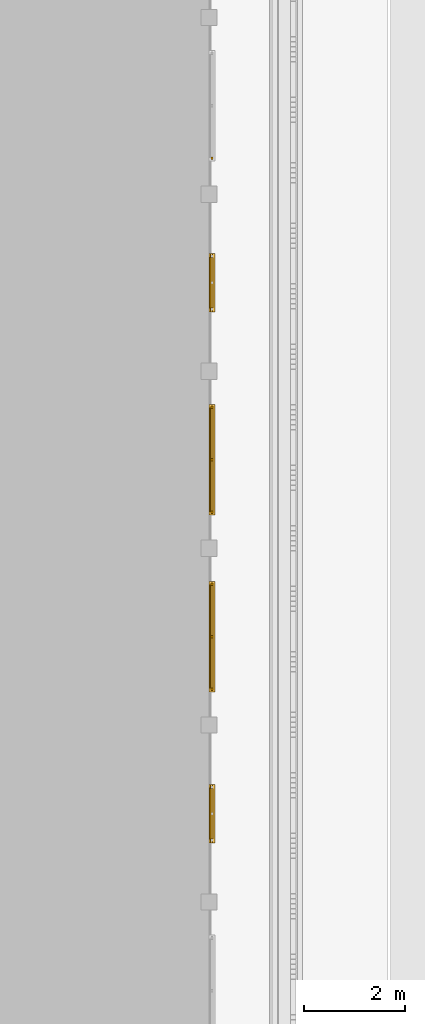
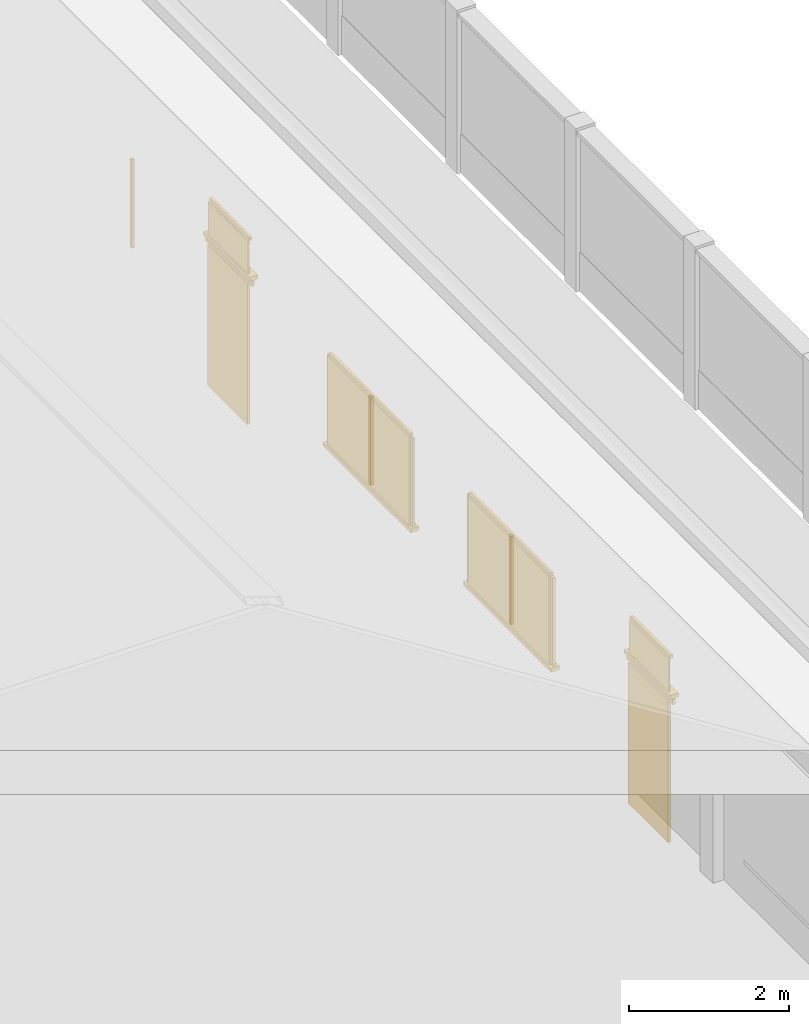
# One storey, part 65 of 151: 19 windows, 4 doors.
"""IFC2X3 building model written with IfcOpenShell, lengths in metres."""

import ifcopenshell
import ifcopenshell.guid

model = None  # the IFC model being written
_history = None  # IfcOwnerHistory: only IFC2X3 demands one
_inside = {}  # id of a spatial element -> (the spatial element, [elements in it])
_under = {}  # id of a project, library or spatial element -> (it, [spatial elements below it])
_declared = {}  # id of a project -> (the project, [libraries it declares])
_typed = {}  # id of a type object -> (the type object, [elements of that type])
_made_of = {}  # id of a material, layer set ... -> (it, [elements and type objects made of it])


def new_model(schema):
    """Start an empty IFC model of exactly this schema.

    Asked for "IFC4X3", IfcOpenShell would pick the latest addendum, in which some entities
    have other attributes; the version numbers below select the first issue.
    IFC2X3 requires an IfcOwnerHistory on every rooted entity: one is made here for all.
    """
    global model, _history
    if schema == "IFC4X3":
        model = ifcopenshell.file(schema_version=(4, 3, 0, 0))
    else:
        model = ifcopenshell.file(schema=schema)
    _inside.clear()
    _under.clear()
    _declared.clear()
    _typed.clear()
    _made_of.clear()
    _history = None
    if model.schema == "IFC2X3":
        org = make("IfcOrganization", Name="unknown")
        user = make(
            "IfcPersonAndOrganization",
            ThePerson=make("IfcPerson", FamilyName="unknown"),
            TheOrganization=org,
        )
        app = make(
            "IfcApplication",
            ApplicationDeveloper=org,
            Version="unknown",
            ApplicationFullName="unknown",
            ApplicationIdentifier="unknown",
        )
        _history = make(
            "IfcOwnerHistory",
            OwningUser=user,
            OwningApplication=app,
            ChangeAction="ADDED",
            CreationDate=0,
        )
    return model


def make(cls, **values):
    """One entity of the class cls with the attributes given. An attribute that is None is left unset."""
    return model.create_entity(
        cls, **{name: value for name, value in values.items() if value is not None}
    )


def rooted(cls, **values):
    """An entity with a GlobalId (a new one), such as an element, a storey or a relation."""
    return make(cls, GlobalId=ifcopenshell.guid.new(), OwnerHistory=_history, **values)


def si_unit(unit_type, name, prefix=None):
    """IfcSIUnit, for example si_unit("LENGTHUNIT", "METRE", prefix="MILLI")."""
    return make("IfcSIUnit", UnitType=unit_type, Prefix=prefix, Name=name)


def assignment(units):
    """IfcUnitAssignment: the units of a project."""
    return None if units is None else make("IfcUnitAssignment", Units=units)


def point(xyz):
    """IfcCartesianPoint."""
    return None if xyz is None else make("IfcCartesianPoint", Coordinates=xyz)


def direction(xyz):
    """IfcDirection."""
    return None if xyz is None else make("IfcDirection", DirectionRatios=xyz)


def frame(location, z_axis=None, x_axis=None):
    """IfcAxis2Placement3D, a coordinate frame: its origin and axes. An axis left out is left unset."""
    return make(
        "IfcAxis2Placement3D",
        Location=point(location),
        Axis=direction(z_axis),
        RefDirection=direction(x_axis),
    )


def origin():
    """The frame at (0, 0, 0) with its axes left unset."""
    return frame((0.0, 0.0, 0.0))


def origin_with_axes():
    """The frame at (0, 0, 0) with the z axis (0, 0, 1) and the x axis (1, 0, 0) written out."""
    return frame((0.0, 0.0, 0.0), z_axis=(0.0, 0.0, 1.0), x_axis=(1.0, 0.0, 0.0))


def place(relative_to, where):
    """IfcLocalPlacement: puts the frame where relative to a parent placement (None: the world)."""
    return make(
        "IfcLocalPlacement", PlacementRelTo=relative_to, RelativePlacement=where
    )


def context(
    kind, dimensions, precision=None, world=None, true_north=None, identifier=None
):
    """IfcGeometricRepresentationContext, for example the 3D "Model" context."""
    return make(
        "IfcGeometricRepresentationContext",
        ContextIdentifier=identifier,
        ContextType=kind,
        CoordinateSpaceDimension=dimensions,
        Precision=precision,
        WorldCoordinateSystem=world,
        TrueNorth=true_north,
    )


def subcontext(parent, identifier, kind, view, scale=None):
    """IfcGeometricRepresentationSubContext, for example "Body" below "Model"."""
    return make(
        "IfcGeometricRepresentationSubContext",
        ContextIdentifier=identifier,
        ContextType=kind,
        ParentContext=parent,
        TargetScale=scale,
        TargetView=view,
    )


def project(units=None, contexts=None):
    """IfcProject with its units and contexts."""
    return rooted(
        "IfcProject",
        Name="project",
        RepresentationContexts=contexts,
        UnitsInContext=assignment(units),
    )


def spatial(cls, under=None, at=None, **own):
    """A site, building, storey or space (cls), placed at a placement, below another one or the project."""
    s = rooted(cls, ObjectPlacement=at, **own)
    if under is not None:
        _under.setdefault(under.id(), (under, []))[1].append(s)
    return s


def faces_of(points, faces, orient=None, outer=None):
    """IfcFace entities. A face is a list of loops; a loop is a list of indices into points, from 0.

    orient and outer hold one flag for each loop. By default every Orientation is true, the
    first loop of a face is its IfcFaceOuterBound and the others are IfcFaceBound.
    """
    made = []
    for i, loops in enumerate(faces):
        bounds = []
        for j, loop in enumerate(loops):
            is_outer = j == 0 if outer is None else outer[i][j]
            bounds.append(
                make(
                    "IfcFaceOuterBound" if is_outer else "IfcFaceBound",
                    Bound=make("IfcPolyLoop", Polygon=[points[k] for k in loop]),
                    Orientation=True if orient is None else orient[i][j],
                )
            )
        made.append(make("IfcFace", Bounds=bounds))
    return made


def faceted_brep(points, faces, orient=None, outer=None, voids=None):
    """IfcFacetedBrep: a solid bounded by flat faces; with voids (closed shells), ...WithVoids."""
    shared = [point(p) for p in points]
    hull = make("IfcClosedShell", CfsFaces=faces_of(shared, faces, orient, outer))
    if voids is None:
        return make("IfcFacetedBrep", Outer=hull)
    return make(
        "IfcFacetedBrepWithVoids",
        Outer=hull,
        Voids=[
            make(cls, CfsFaces=faces_of(shared, fs, o, b)) for cls, fs, o, b in voids
        ],
    )


def shape(context_of_items, identifier, shape_type, items):
    """IfcShapeRepresentation: the items that make up one representation, for example the "Body"."""
    return make(
        "IfcShapeRepresentation",
        ContextOfItems=context_of_items,
        RepresentationIdentifier=identifier,
        RepresentationType=shape_type,
        Items=items,
    )


def made_of(thing, what):
    """Note that an element or type object is made of a material, layer set ...; save() writes the relation."""
    if what is not None:
        _made_of.setdefault(what.id(), (what, []))[1].append(thing)
    return thing


def element(
    cls,
    number,
    at=None,
    inside=None,
    cuts=None,
    type_object=None,
    material=None,
    context=None,
    identifier="Body",
    shape_type=None,
    held_by="IfcProductDefinitionShape",
    body=None,
    shapes=None,
    **own,
):
    """One element of the class cls, such as IfcWall. Its Tag is "e" and its number.

    at: its placement. inside: the storey or other place that contains it. cuts: it is an
    opening in that element (IfcRelVoidsElement). A single representation is given by context,
    identifier, shape_type and body (its items); several are given by shapes. held_by: the class
    of the entity that holds the representations. save() writes the other relations.
    """
    e = rooted(cls, Tag="e%d" % number, ObjectPlacement=at, **own)
    if body is not None:
        shapes = [shape(context, identifier, shape_type, body)]
    if shapes is not None:
        e.Representation = make(held_by, Representations=shapes)
    if inside is not None:
        _inside.setdefault(inside.id(), (inside, []))[1].append(e)
    if cuts is not None:
        rooted(
            "IfcRelVoidsElement", RelatingBuildingElement=cuts, RelatedOpeningElement=e
        )
    if type_object is not None:
        _typed.setdefault(type_object.id(), (type_object, []))[1].append(e)
    return made_of(e, material)


def aggregate(whole, parts):
    """IfcRelAggregates: a whole, such as a stair, and the parts it consists of."""
    return rooted("IfcRelAggregates", RelatingObject=whole, RelatedObjects=parts)


def save(model, path):
    """Write the relations noted so far, then the file.

    IfcRelAggregates (storeys below a building ...), IfcRelContainedInSpatialStructure (elements
    in a storey), IfcRelDefinesByType, IfcRelAssociatesMaterial and IfcRelDeclares: one each for
    every whole, place, type object, material and project.
    """
    for whole, parts in _under.values():
        aggregate(whole, parts)
    for where, things in _inside.values():
        rooted(
            "IfcRelContainedInSpatialStructure",
            RelatedElements=things,
            RelatingStructure=where,
        )
    for kind, things in _typed.values():
        rooted("IfcRelDefinesByType", RelatedObjects=things, RelatingType=kind)
    for what, things in _made_of.values():
        rooted("IfcRelAssociatesMaterial", RelatedObjects=things, RelatingMaterial=what)
    for by, libraries in _declared.values():
        rooted("IfcRelDeclares", RelatingContext=by, RelatedDefinitions=libraries)
    model.write(path)


model = new_model("IFC2X3")

# Units and contexts
model_context = context("Model", 3, precision=1e-05, world=origin_with_axes())
body_context = subcontext(model_context, "Body", "Model", "MODEL_VIEW")
ifc_project = project(units=[si_unit("LENGTHUNIT", "METRE"), si_unit("AREAUNIT", "SQUARE_METRE"), si_unit("VOLUMEUNIT", "CUBIC_METRE"), si_unit("PLANEANGLEUNIT", "RADIAN")], contexts=[model_context])

# Site, building, storey
site_placement = place(None, origin_with_axes())
site = spatial("IfcSite", under=ifc_project, at=site_placement, Name="Predio Los Mangos - Morales, San Martín", CompositionType="ELEMENT")
building_placement = place(site_placement, origin())
building = spatial("IfcBuilding", under=site, at=building_placement, Name="Hogar de Refugio Temporal", CompositionType="ELEMENT")
storey_placement = place(building_placement, origin())
storey = spatial("IfcBuildingStorey", under=building, at=storey_placement, Name="NIVEL 1 (NPT +0.00)", CompositionType="ELEMENT", Elevation=0.0)

# Doors
door_1_placement = place(storey_placement, origin())
element("IfcDoor", 1, at=door_1_placement, inside=storey, Name="E-07_p4", ObjectType="Puerta", context=body_context, shape_type="Brep", body=[
    faceted_brep([(66.51, 107.995, 0.15), (66.51, 108.995, 0.15), (66.55, 108.995, 0.15), (66.55, 107.995, 0.15), (66.51, 107.995, 2.3), (66.55, 107.995, 2.3), (66.55, 108.995, 2.3), (66.51, 108.995, 2.3)], [[[0, 1, 2, 3]], [[4, 5, 6, 7]], [[0, 3, 5, 4]], [[3, 2, 6, 5]], [[2, 1, 7, 6]], [[1, 0, 4, 7]]]),
])
door_2_placement = place(storey_placement, origin())
element("IfcDoor", 2, at=door_2_placement, inside=storey, Name="E-07_p4_marco", ObjectType="Puerta", context=body_context, shape_type="Brep", body=[
    faceted_brep([(66.53, 107.915, 2.3), (66.53, 109.075, 2.3), (66.57, 109.075, 2.3), (66.57, 107.915, 2.3), (66.53, 107.915, 2.38), (66.57, 107.915, 2.38), (66.57, 109.075, 2.38), (66.53, 109.075, 2.38)], [[[0, 1, 2, 3]], [[4, 5, 6, 7]], [[0, 3, 5, 4]], [[3, 2, 6, 5]], [[2, 1, 7, 6]], [[1, 0, 4, 7]]]),
])

# Windows
window_1_placement = place(storey_placement, origin())
element("IfcWindow", 3, at=window_1_placement, inside=storey, Name="E-07_vt4_vid", ObjectType="Ventana", context=body_context, shape_type="Brep", body=[
    faceted_brep([(66.52, 107.995, 2.45), (66.52, 108.995, 2.45), (66.54, 108.995, 2.45), (66.54, 107.995, 2.45), (66.52, 107.995, 2.95), (66.54, 107.995, 2.95), (66.54, 108.995, 2.95), (66.52, 108.995, 2.95)], [[[0, 1, 2, 3]], [[4, 5, 6, 7]], [[0, 3, 5, 4]], [[3, 2, 6, 5]], [[2, 1, 7, 6]], [[1, 0, 4, 7]]]),
])
window_2_placement = place(storey_placement, origin())
element("IfcWindow", 4, at=window_2_placement, inside=storey, Name="E-07_vt4_m", ObjectType="Ventana", context=body_context, shape_type="Brep", body=[
    faceted_brep([(66.54, 107.995, 2.95), (66.54, 108.995, 2.95), (66.58, 108.995, 2.95), (66.58, 107.995, 2.95), (66.54, 107.995, 3.0), (66.58, 107.995, 3.0), (66.58, 108.995, 3.0), (66.54, 108.995, 3.0)], [[[0, 1, 2, 3]], [[4, 5, 6, 7]], [[0, 3, 5, 4]], [[3, 2, 6, 5]], [[2, 1, 7, 6]], [[1, 0, 4, 7]]]),
])
window_3_placement = place(storey_placement, origin())
element("IfcWindow", 5, at=window_3_placement, inside=storey, Name="E-07_vt4_alf", ObjectType="Ventana", context=body_context, shape_type="Brep", body=[
    faceted_brep([(66.5, 107.915, 2.39), (66.5, 109.075, 2.39), (66.62, 109.075, 2.39), (66.62, 107.915, 2.39), (66.5, 107.915, 2.45), (66.62, 107.915, 2.45), (66.62, 109.075, 2.45), (66.5, 109.075, 2.45)], [[[0, 1, 2, 3]], [[4, 5, 6, 7]], [[0, 3, 5, 4]], [[3, 2, 6, 5]], [[2, 1, 7, 6]], [[1, 0, 4, 7]]]),
])
window_4_placement = place(storey_placement, origin())
element("IfcWindow", 6, at=window_4_placement, inside=storey, Name="E-07_v5_vid", ObjectType="Ventana", context=body_context, shape_type="Brep", body=[
    faceted_brep([(66.52, 110.9871, 1.05), (66.52, 113.0229, 1.05), (66.54, 113.0229, 1.05), (66.54, 110.9871, 1.05), (66.52, 110.9871, 2.4), (66.54, 110.9871, 2.4), (66.54, 113.0229, 2.4), (66.52, 113.0229, 2.4)], [[[0, 1, 2, 3]], [[4, 5, 6, 7]], [[0, 3, 5, 4]], [[3, 2, 6, 5]], [[2, 1, 7, 6]], [[1, 0, 4, 7]]]),
])
window_5_placement = place(storey_placement, origin())
element("IfcWindow", 7, at=window_5_placement, inside=storey, Name="E-07_v5_m", ObjectType="Ventana", context=body_context, shape_type="Brep", body=[
    faceted_brep([(66.54, 110.9371, 1.05), (66.54, 110.9871, 1.05), (66.58, 110.9871, 1.05), (66.58, 110.9371, 1.05), (66.54, 110.9371, 2.4), (66.58, 110.9371, 2.4), (66.58, 110.9871, 2.4), (66.54, 110.9871, 2.4)], [[[0, 1, 2, 3]], [[4, 5, 6, 7]], [[0, 3, 5, 4]], [[3, 2, 6, 5]], [[2, 1, 7, 6]], [[1, 0, 4, 7]]]),
])
window_6_placement = place(storey_placement, origin())
element("IfcWindow", 8, at=window_6_placement, inside=storey, Name="E-07_v5_m", ObjectType="Ventana", context=body_context, shape_type="Brep", body=[
    faceted_brep([(66.54, 113.0229, 1.05), (66.54, 113.0729, 1.05), (66.58, 113.0729, 1.05), (66.58, 113.0229, 1.05), (66.54, 113.0229, 2.4), (66.58, 113.0229, 2.4), (66.58, 113.0729, 2.4), (66.54, 113.0729, 2.4)], [[[0, 1, 2, 3]], [[4, 5, 6, 7]], [[0, 3, 5, 4]], [[3, 2, 6, 5]], [[2, 1, 7, 6]], [[1, 0, 4, 7]]]),
])
window_7_placement = place(storey_placement, origin())
element("IfcWindow", 9, at=window_7_placement, inside=storey, Name="E-07_v5_m", ObjectType="Ventana", context=body_context, shape_type="Brep", body=[
    faceted_brep([(66.54, 110.9871, 2.4), (66.54, 113.0229, 2.4), (66.58, 113.0229, 2.4), (66.58, 110.9871, 2.4), (66.54, 110.9871, 2.45), (66.58, 110.9871, 2.45), (66.58, 113.0229, 2.45), (66.54, 113.0229, 2.45)], [[[0, 1, 2, 3]], [[4, 5, 6, 7]], [[0, 3, 5, 4]], [[3, 2, 6, 5]], [[2, 1, 7, 6]], [[1, 0, 4, 7]]]),
])
window_8_placement = place(storey_placement, origin())
element("IfcWindow", 10, at=window_8_placement, inside=storey, Name="E-07_v5_m", ObjectType="Ventana", context=body_context, shape_type="Brep", body=[
    faceted_brep([(66.54, 111.98, 1.05), (66.54, 112.03, 1.05), (66.58, 112.03, 1.05), (66.58, 111.98, 1.05), (66.54, 111.98, 2.4), (66.58, 111.98, 2.4), (66.58, 112.03, 2.4), (66.54, 112.03, 2.4)], [[[0, 1, 2, 3]], [[4, 5, 6, 7]], [[0, 3, 5, 4]], [[3, 2, 6, 5]], [[2, 1, 7, 6]], [[1, 0, 4, 7]]]),
])
window_9_placement = place(storey_placement, origin())
element("IfcWindow", 11, at=window_9_placement, inside=storey, Name="E-07_v5_alf", ObjectType="Ventana", context=body_context, shape_type="Brep", body=[
    faceted_brep([(66.5, 110.9071, 0.99), (66.5, 113.1029, 0.99), (66.62, 113.1029, 0.99), (66.62, 110.9071, 0.99), (66.5, 110.9071, 1.05), (66.62, 110.9071, 1.05), (66.62, 113.1029, 1.05), (66.5, 113.1029, 1.05)], [[[0, 1, 2, 3]], [[4, 5, 6, 7]], [[0, 3, 5, 4]], [[3, 2, 6, 5]], [[2, 1, 7, 6]], [[1, 0, 4, 7]]]),
])
window_10_placement = place(storey_placement, origin())
element("IfcWindow", 12, at=window_10_placement, inside=storey, Name="E-07_v6_vid", ObjectType="Ventana", context=body_context, shape_type="Brep", body=[
    faceted_brep([(66.52, 114.4971, 1.05), (66.52, 116.5329, 1.05), (66.54, 116.5329, 1.05), (66.54, 114.4971, 1.05), (66.52, 114.4971, 2.4), (66.54, 114.4971, 2.4), (66.54, 116.5329, 2.4), (66.52, 116.5329, 2.4)], [[[0, 1, 2, 3]], [[4, 5, 6, 7]], [[0, 3, 5, 4]], [[3, 2, 6, 5]], [[2, 1, 7, 6]], [[1, 0, 4, 7]]]),
])
window_11_placement = place(storey_placement, origin())
element("IfcWindow", 13, at=window_11_placement, inside=storey, Name="E-07_v6_m", ObjectType="Ventana", context=body_context, shape_type="Brep", body=[
    faceted_brep([(66.54, 114.4471, 1.05), (66.54, 114.4971, 1.05), (66.58, 114.4971, 1.05), (66.58, 114.4471, 1.05), (66.54, 114.4471, 2.4), (66.58, 114.4471, 2.4), (66.58, 114.4971, 2.4), (66.54, 114.4971, 2.4)], [[[0, 1, 2, 3]], [[4, 5, 6, 7]], [[0, 3, 5, 4]], [[3, 2, 6, 5]], [[2, 1, 7, 6]], [[1, 0, 4, 7]]]),
])
window_12_placement = place(storey_placement, origin())
element("IfcWindow", 14, at=window_12_placement, inside=storey, Name="E-07_v6_m", ObjectType="Ventana", context=body_context, shape_type="Brep", body=[
    faceted_brep([(66.54, 116.5329, 1.05), (66.54, 116.5829, 1.05), (66.58, 116.5829, 1.05), (66.58, 116.5329, 1.05), (66.54, 116.5329, 2.4), (66.58, 116.5329, 2.4), (66.58, 116.5829, 2.4), (66.54, 116.5829, 2.4)], [[[0, 1, 2, 3]], [[4, 5, 6, 7]], [[0, 3, 5, 4]], [[3, 2, 6, 5]], [[2, 1, 7, 6]], [[1, 0, 4, 7]]]),
])
window_13_placement = place(storey_placement, origin())
element("IfcWindow", 15, at=window_13_placement, inside=storey, Name="E-07_v6_m", ObjectType="Ventana", context=body_context, shape_type="Brep", body=[
    faceted_brep([(66.54, 114.4971, 2.4), (66.54, 116.5329, 2.4), (66.58, 116.5329, 2.4), (66.58, 114.4971, 2.4), (66.54, 114.4971, 2.45), (66.58, 114.4971, 2.45), (66.58, 116.5329, 2.45), (66.54, 116.5329, 2.45)], [[[0, 1, 2, 3]], [[4, 5, 6, 7]], [[0, 3, 5, 4]], [[3, 2, 6, 5]], [[2, 1, 7, 6]], [[1, 0, 4, 7]]]),
])
window_14_placement = place(storey_placement, origin())
element("IfcWindow", 16, at=window_14_placement, inside=storey, Name="E-07_v6_m", ObjectType="Ventana", context=body_context, shape_type="Brep", body=[
    faceted_brep([(66.54, 115.49, 1.05), (66.54, 115.54, 1.05), (66.58, 115.54, 1.05), (66.58, 115.49, 1.05), (66.54, 115.49, 2.4), (66.58, 115.49, 2.4), (66.58, 115.54, 2.4), (66.54, 115.54, 2.4)], [[[0, 1, 2, 3]], [[4, 5, 6, 7]], [[0, 3, 5, 4]], [[3, 2, 6, 5]], [[2, 1, 7, 6]], [[1, 0, 4, 7]]]),
])
window_15_placement = place(storey_placement, origin())
element("IfcWindow", 17, at=window_15_placement, inside=storey, Name="E-07_v6_alf", ObjectType="Ventana", context=body_context, shape_type="Brep", body=[
    faceted_brep([(66.5, 114.4171, 0.99), (66.5, 116.6129, 0.99), (66.62, 116.6129, 0.99), (66.62, 114.4171, 0.99), (66.5, 114.4171, 1.05), (66.62, 114.4171, 1.05), (66.62, 116.6129, 1.05), (66.5, 116.6129, 1.05)], [[[0, 1, 2, 3]], [[4, 5, 6, 7]], [[0, 3, 5, 4]], [[3, 2, 6, 5]], [[2, 1, 7, 6]], [[1, 0, 4, 7]]]),
])

# Doors
door_3_placement = place(storey_placement, origin())
element("IfcDoor", 18, at=door_3_placement, inside=storey, Name="E-07_p7", ObjectType="Puerta", context=body_context, shape_type="Brep", body=[
    faceted_brep([(66.51, 118.525, 0.15), (66.51, 119.525, 0.15), (66.55, 119.525, 0.15), (66.55, 118.525, 0.15), (66.51, 118.525, 2.3), (66.55, 118.525, 2.3), (66.55, 119.525, 2.3), (66.51, 119.525, 2.3)], [[[0, 1, 2, 3]], [[4, 5, 6, 7]], [[0, 3, 5, 4]], [[3, 2, 6, 5]], [[2, 1, 7, 6]], [[1, 0, 4, 7]]]),
])
door_4_placement = place(storey_placement, origin())
element("IfcDoor", 19, at=door_4_placement, inside=storey, Name="E-07_p7_marco", ObjectType="Puerta", context=body_context, shape_type="Brep", body=[
    faceted_brep([(66.53, 118.445, 2.3), (66.53, 119.605, 2.3), (66.57, 119.605, 2.3), (66.57, 118.445, 2.3), (66.53, 118.445, 2.38), (66.57, 118.445, 2.38), (66.57, 119.605, 2.38), (66.53, 119.605, 2.38)], [[[0, 1, 2, 3]], [[4, 5, 6, 7]], [[0, 3, 5, 4]], [[3, 2, 6, 5]], [[2, 1, 7, 6]], [[1, 0, 4, 7]]]),
])

# Windows
window_16_placement = place(storey_placement, origin())
element("IfcWindow", 20, at=window_16_placement, inside=storey, Name="E-07_vt7_vid", ObjectType="Ventana", context=body_context, shape_type="Brep", body=[
    faceted_brep([(66.52, 118.525, 2.45), (66.52, 119.525, 2.45), (66.54, 119.525, 2.45), (66.54, 118.525, 2.45), (66.52, 118.525, 2.95), (66.54, 118.525, 2.95), (66.54, 119.525, 2.95), (66.52, 119.525, 2.95)], [[[0, 1, 2, 3]], [[4, 5, 6, 7]], [[0, 3, 5, 4]], [[3, 2, 6, 5]], [[2, 1, 7, 6]], [[1, 0, 4, 7]]]),
])
window_17_placement = place(storey_placement, origin())
element("IfcWindow", 21, at=window_17_placement, inside=storey, Name="E-07_vt7_m", ObjectType="Ventana", context=body_context, shape_type="Brep", body=[
    faceted_brep([(66.54, 118.525, 2.95), (66.54, 119.525, 2.95), (66.58, 119.525, 2.95), (66.58, 118.525, 2.95), (66.54, 118.525, 3.0), (66.58, 118.525, 3.0), (66.58, 119.525, 3.0), (66.54, 119.525, 3.0)], [[[0, 1, 2, 3]], [[4, 5, 6, 7]], [[0, 3, 5, 4]], [[3, 2, 6, 5]], [[2, 1, 7, 6]], [[1, 0, 4, 7]]]),
])
window_18_placement = place(storey_placement, origin())
element("IfcWindow", 22, at=window_18_placement, inside=storey, Name="E-07_vt7_alf", ObjectType="Ventana", context=body_context, shape_type="Brep", body=[
    faceted_brep([(66.5, 118.445, 2.39), (66.5, 119.605, 2.39), (66.62, 119.605, 2.39), (66.62, 118.445, 2.39), (66.5, 118.445, 2.45), (66.62, 118.445, 2.45), (66.62, 119.605, 2.45), (66.5, 119.605, 2.45)], [[[0, 1, 2, 3]], [[4, 5, 6, 7]], [[0, 3, 5, 4]], [[3, 2, 6, 5]], [[2, 1, 7, 6]], [[1, 0, 4, 7]]]),
])
window_19_placement = place(storey_placement, origin())
element("IfcWindow", 23, at=window_19_placement, inside=storey, Name="E-07_v8_m", ObjectType="Ventana", context=body_context, shape_type="Brep", body=[
    faceted_brep([(66.54, 121.4671, 1.05), (66.54, 121.5171, 1.05), (66.58, 121.5171, 1.05), (66.58, 121.4671, 1.05), (66.54, 121.4671, 2.4), (66.58, 121.4671, 2.4), (66.58, 121.5171, 2.4), (66.54, 121.5171, 2.4)], [[[0, 1, 2, 3]], [[4, 5, 6, 7]], [[0, 3, 5, 4]], [[3, 2, 6, 5]], [[2, 1, 7, 6]], [[1, 0, 4, 7]]]),
])

save(model, "model.ifc")
